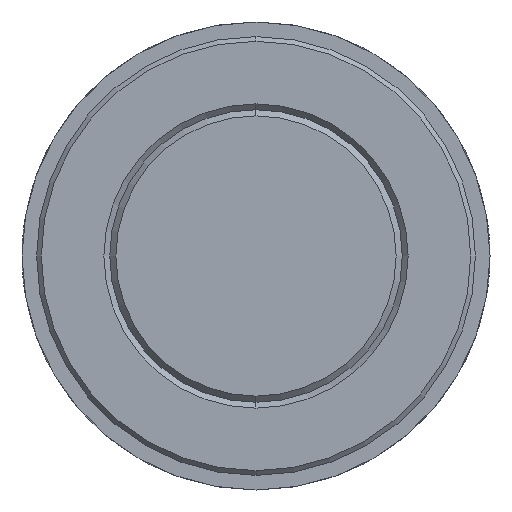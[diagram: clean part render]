
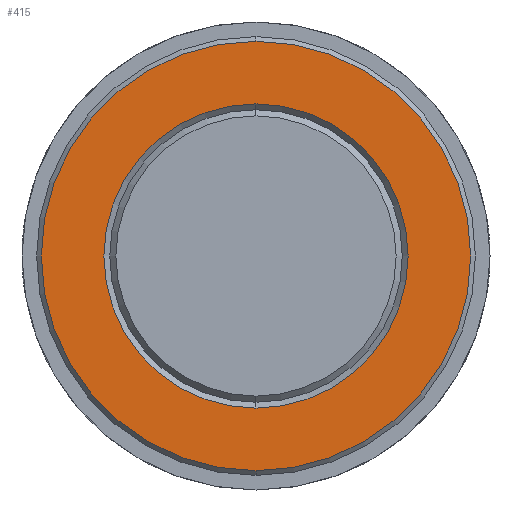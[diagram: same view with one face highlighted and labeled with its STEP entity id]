
A CAD part, left-side view. The second image highlights one B-rep face of the part: STEP entity #415.
In plain terms, the highlighted planar face has unit normal (-1, 0, 0).
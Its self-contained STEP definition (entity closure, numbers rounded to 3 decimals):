
#329=VERTEX_POINT('',#737);
#331=VERTEX_POINT('',#739);
#349=EDGE_CURVE('',#543,#331,#757,.T.);
#355=EDGE_CURVE('',#331,#543,#764,.T.);
#415=ADVANCED_FACE('',(#830,#831),#832,.T.);
#455=EDGE_CURVE('',#329,#559,#878,.T.);
#503=EDGE_CURVE('',#559,#329,#932,.T.);
#543=VERTEX_POINT('',#977);
#559=VERTEX_POINT('',#995);
#737=CARTESIAN_POINT('',(25.0,0.,-26.0));
#739=CARTESIAN_POINT('',(25.0,0.0,36.7));
#757=CIRCLE('',#1295,36.7);
#764=CIRCLE('',#1304,36.7);
#830=FACE_BOUND('',#1409,.T.);
#831=FACE_OUTER_BOUND('',#1410,.T.);
#832=PLANE('',#1411);
#878=CIRCLE('',#1496,26.0);
#932=CIRCLE('',#1566,26.0);
#977=CARTESIAN_POINT('',(25.0,0.,-36.7));
#995=CARTESIAN_POINT('',(25.0,0.0,26.0));
#1295=AXIS2_PLACEMENT_3D('',#1855,#1856,#1857);
#1304=AXIS2_PLACEMENT_3D('',#1869,#1870,#1871);
#1409=EDGE_LOOP('',(#1946,#1947));
#1410=EDGE_LOOP('',(#1948,#1949));
#1411=AXIS2_PLACEMENT_3D('',#1950,#1951,#1952);
#1496=AXIS2_PLACEMENT_3D('',#2012,#2013,#2014);
#1566=AXIS2_PLACEMENT_3D('',#2081,#2082,#2083);
#1855=CARTESIAN_POINT('',(25.0,0.0,0.0));
#1856=DIRECTION('',(1.0,0.0,-0.0));
#1857=DIRECTION('',(0.0,0.0,1.0));
#1869=CARTESIAN_POINT('',(25.0,0.0,0.0));
#1870=DIRECTION('',(1.0,0.0,-0.0));
#1871=DIRECTION('',(0.0,0.0,1.0));
#1946=ORIENTED_EDGE('',*,*,#503,.T.);
#1947=ORIENTED_EDGE('',*,*,#455,.T.);
#1948=ORIENTED_EDGE('',*,*,#355,.F.);
#1949=ORIENTED_EDGE('',*,*,#349,.F.);
#1950=CARTESIAN_POINT('',(25.0,0.0,18.35));
#1951=DIRECTION('',(-1.0,0.0,0.));
#1952=DIRECTION('',(0.,0.0,-1.0));
#2012=CARTESIAN_POINT('',(25.0,0.0,0.0));
#2013=DIRECTION('',(1.0,0.0,0.));
#2014=DIRECTION('',(0.,0.0,1.0));
#2081=CARTESIAN_POINT('',(25.0,0.0,0.0));
#2082=DIRECTION('',(1.0,0.0,0.));
#2083=DIRECTION('',(0.,0.0,1.0));
